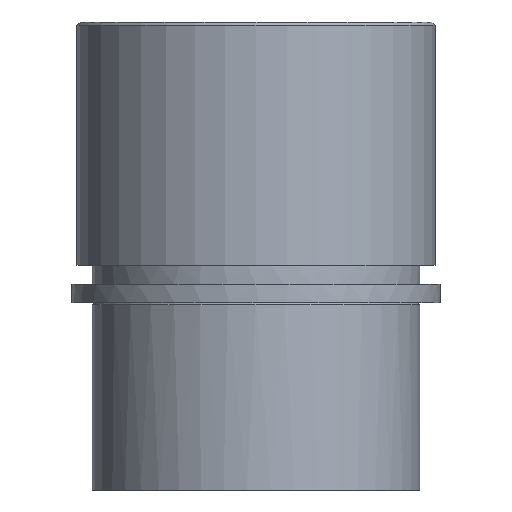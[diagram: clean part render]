
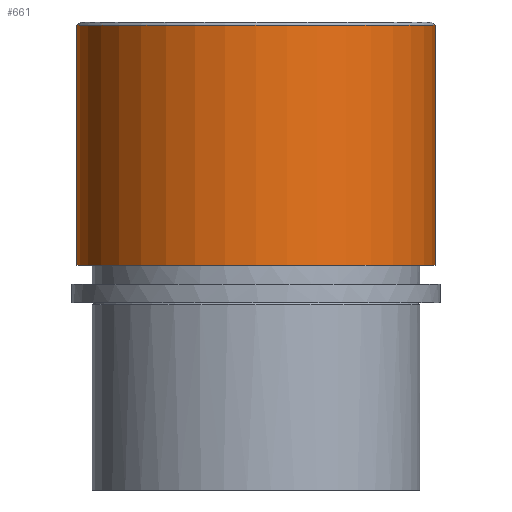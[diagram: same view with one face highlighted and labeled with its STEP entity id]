
A CAD part, front view. The second image highlights one B-rep face of the part: STEP entity #661.
In plain terms, the highlighted cylindrical face has radius 57.4 mm (diameter 114.8 mm), a partial arc.
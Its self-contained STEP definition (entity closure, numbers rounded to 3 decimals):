
#505=CARTESIAN_POINT('Vertex',(-57.4,0.,89.)) ;
#512=CARTESIAN_POINT('Vertex',(57.4,0.,89.)) ;
#532=CARTESIAN_POINT('Axis2P3D Location',(0.,0.,89.)) ;
#619=CARTESIAN_POINT('Line Origine',(-57.4,0.,90.)) ;
#623=CARTESIAN_POINT('Vertex',(-57.4,0.,12.)) ;
#626=CARTESIAN_POINT('Line Origine',(57.4,0.,90.)) ;
#630=CARTESIAN_POINT('Vertex',(57.4,0.,12.)) ;
#645=CARTESIAN_POINT('Axis2P3D Location',(0.,0.,90.)) ;
#650=CARTESIAN_POINT('Axis2P3D Location',(0.,0.,12.)) ;
#533=DIRECTION('Axis2P3D Direction',(0.,0.,-1.)) ;
#620=DIRECTION('Vector Direction',(0.,0.,-1.)) ;
#627=DIRECTION('Vector Direction',(0.,0.,-1.)) ;
#646=DIRECTION('Axis2P3D Direction',(0.,0.,-1.)) ;
#647=DIRECTION('Axis2P3D XDirection',(1.,0.,0.)) ;
#651=DIRECTION('Axis2P3D Direction',(0.,0.,-1.)) ;
#534=AXIS2_PLACEMENT_3D('Circle Axis2P3D',#532,#533,$) ;
#648=AXIS2_PLACEMENT_3D('Cylinder Axis2P3D',#645,#646,#647) ;
#652=AXIS2_PLACEMENT_3D('Circle Axis2P3D',#650,#651,$) ;
#656=ORIENTED_EDGE('',*,*,#632,.T.) ;
#657=ORIENTED_EDGE('',*,*,#536,.F.) ;
#658=ORIENTED_EDGE('',*,*,#625,.T.) ;
#659=ORIENTED_EDGE('',*,*,#654,.T.) ;
#621=VECTOR('Line Direction',#620,1.) ;
#628=VECTOR('Line Direction',#627,1.) ;
#661=ADVANCED_FACE('733-80',(#660),#649,.T.) ;
#535=CIRCLE('generated circle',#534,57.4) ;
#653=CIRCLE('generated circle',#652,57.4) ;
#649=CYLINDRICAL_SURFACE('generated cylinder',#648,57.4) ;
#536=EDGE_CURVE('',#506,#513,#535,.F.) ;
#625=EDGE_CURVE('',#506,#624,#622,.T.) ;
#632=EDGE_CURVE('',#631,#513,#629,.F.) ;
#654=EDGE_CURVE('',#624,#631,#653,.F.) ;
#655=EDGE_LOOP('',(#656,#657,#658,#659)) ;
#660=FACE_OUTER_BOUND('',#655,.T.) ;
#622=LINE('Line',#619,#621) ;
#629=LINE('Line',#626,#628) ;
#506=VERTEX_POINT('',#505) ;
#513=VERTEX_POINT('',#512) ;
#624=VERTEX_POINT('',#623) ;
#631=VERTEX_POINT('',#630) ;
